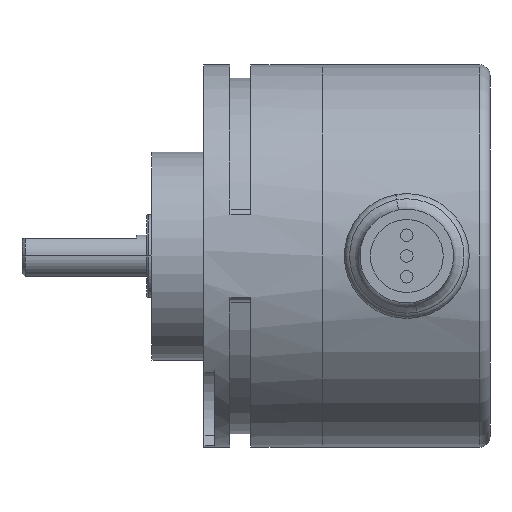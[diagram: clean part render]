
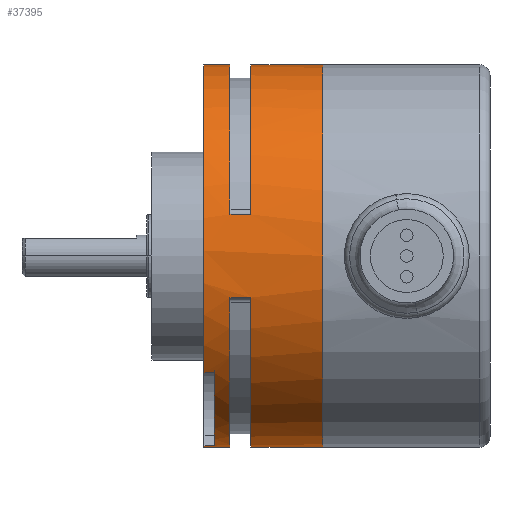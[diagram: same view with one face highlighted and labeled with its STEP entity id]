
A CAD part, front view. The second image highlights one B-rep face of the part: STEP entity #37395.
In plain terms, the highlighted cylindrical face has radius 18.4 mm (diameter 36.8 mm), a partial arc.
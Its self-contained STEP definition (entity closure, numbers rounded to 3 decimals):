
#1774 = CIRCLE ( 'NONE', #2210, 18.4 ) ;
#2090 = CARTESIAN_POINT ( 'NONE',  ( -47.111, 5.115, 0. ) ) ;
#2119 = FACE_OUTER_BOUND ( 'NONE', #37374, .T. ) ;
#2124 = DIRECTION ( 'NONE',  ( -1., 0., 0. ) ) ;
#2130 = CARTESIAN_POINT ( 'NONE',  ( -47.111, 2.669, -18.237 ) ) ;
#2187 = DIRECTION ( 'NONE',  ( 0., 0., 1. ) ) ;
#2210 = AXIS2_PLACEMENT_3D ( 'NONE', #2090, #2124, #2187 ) ;
#2218 = CIRCLE ( 'NONE', #2308, 18.4 ) ;
#2223 = CARTESIAN_POINT ( 'NONE',  ( -44.611, -12.845, 4. ) ) ;
#2243 = CARTESIAN_POINT ( 'NONE',  ( -35.711, 5.115, 0. ) ) ;
#2303 = DIRECTION ( 'NONE',  ( 0., 0., -1. ) ) ;
#2305 = DIRECTION ( 'NONE',  ( 1., 0., 0. ) ) ;
#2307 = CARTESIAN_POINT ( 'NONE',  ( -44.611, 5.115, 0. ) ) ;
#2308 = AXIS2_PLACEMENT_3D ( 'NONE', #2307, #2305, #2303 ) ;
#2358 = DIRECTION ( 'NONE',  ( -1., 0., 0. ) ) ;
#2360 = VECTOR ( 'NONE', #2358, 1000. ) ;
#2362 = CARTESIAN_POINT ( 'NONE',  ( -42.611, -12.845, 4. ) ) ;
#2364 = LINE ( 'NONE', #2362, #2360 ) ;
#2390 = CARTESIAN_POINT ( 'NONE',  ( -42.611, -12.845, 4. ) ) ;
#2483 = DIRECTION ( 'NONE',  ( 0., 0., 1. ) ) ;
#2484 = DIRECTION ( 'NONE',  ( -1., 0., 0. ) ) ;
#2486 = AXIS2_PLACEMENT_3D ( 'NONE', #2243, #2484, #2483 ) ;
#2487 = CIRCLE ( 'NONE', #2486, 18.4 ) ;
#2494 = DIRECTION ( 'NONE',  ( -1., 0., 0. ) ) ;
#2495 = CIRCLE ( 'NONE', #2521, 18.4 ) ;
#2496 = AXIS2_PLACEMENT_3D ( 'NONE', #2527, #2520, #2519 ) ;
#2500 = CARTESIAN_POINT ( 'NONE',  ( -47.111, 5.115, 0. ) ) ;
#2519 = DIRECTION ( 'NONE',  ( 0., 0., 1. ) ) ;
#2520 = DIRECTION ( 'NONE',  ( -1., 0., 0. ) ) ;
#2521 = AXIS2_PLACEMENT_3D ( 'NONE', #2500, #2494, #2528 ) ;
#2526 = CYLINDRICAL_SURFACE ( 'NONE', #2496, 18.4 ) ;
#2527 = CARTESIAN_POINT ( 'NONE',  ( -52.111, 5.115, 0. ) ) ;
#2528 = DIRECTION ( 'NONE',  ( 0., 0., 1. ) ) ;
#2567 = DIRECTION ( 'NONE',  ( 0., 0., -1. ) ) ;
#2568 = DIRECTION ( 'NONE',  ( 1., 0., 0. ) ) ;
#2569 = CARTESIAN_POINT ( 'NONE',  ( -42.611, 5.115, 0. ) ) ;
#2570 = AXIS2_PLACEMENT_3D ( 'NONE', #2569, #2568, #2567 ) ;
#2572 = CIRCLE ( 'NONE', #2570, 18.4 ) ;
#2573 = CARTESIAN_POINT ( 'NONE',  ( -46.111, 2.669, -18.237 ) ) ;
#2574 = DIRECTION ( 'NONE',  ( 0., 0., 1. ) ) ;
#2575 = DIRECTION ( 'NONE',  ( -1., 0., 0. ) ) ;
#2576 = CARTESIAN_POINT ( 'NONE',  ( -46.111, 5.115, 0. ) ) ;
#2577 = AXIS2_PLACEMENT_3D ( 'NONE', #2576, #2575, #2574 ) ;
#2578 = CIRCLE ( 'NONE', #2577, 18.4 ) ;
#2579 = CARTESIAN_POINT ( 'NONE',  ( -46.111, -9.456, -11.237 ) ) ;
#2580 = DIRECTION ( 'NONE',  ( -1., 0., 0. ) ) ;
#2581 = VECTOR ( 'NONE', #2580, 1000. ) ;
#2582 = CARTESIAN_POINT ( 'NONE',  ( -46.111, -9.456, -11.237 ) ) ;
#2583 = LINE ( 'NONE', #2582, #2581 ) ;
#2584 = DIRECTION ( 'NONE',  ( -1., 0., 0. ) ) ;
#2585 = VECTOR ( 'NONE', #2584, 1000. ) ;
#2586 = CARTESIAN_POINT ( 'NONE',  ( -46.111, 2.669, -18.237 ) ) ;
#2587 = LINE ( 'NONE', #2586, #2585 ) ;
#2726 = CARTESIAN_POINT ( 'NONE',  ( -47.111, -9.456, -11.237 ) ) ;
#28135 = DIRECTION ( 'NONE',  ( -1., 0., 0. ) ) ;
#28167 = CARTESIAN_POINT ( 'NONE',  ( -47.111, 5.115, 18.4 ) ) ;
#28184 = VECTOR ( 'NONE', #28135, 1000. ) ;
#28185 = CARTESIAN_POINT ( 'NONE',  ( -52.111, 5.115, 18.4 ) ) ;
#28186 = LINE ( 'NONE', #28185, #28184 ) ;
#28292 = CARTESIAN_POINT ( 'NONE',  ( -44.611, 5.115, 18.4 ) ) ;
#28474 = CARTESIAN_POINT ( 'NONE',  ( -42.611, 5.115, 18.4 ) ) ;
#28740 = DIRECTION ( 'NONE',  ( -1., 0., 0. ) ) ;
#28741 = VECTOR ( 'NONE', #28740, 1000. ) ;
#28742 = CARTESIAN_POINT ( 'NONE',  ( -52.111, 5.115, 18.4 ) ) ;
#28743 = LINE ( 'NONE', #28742, #28741 ) ;
#28960 = CARTESIAN_POINT ( 'NONE',  ( -42.611, 5.115, -18.4 ) ) ;
#28961 = DIRECTION ( 'NONE',  ( -1., 0., 0. ) ) ;
#28962 = VECTOR ( 'NONE', #28961, 1000. ) ;
#28963 = CARTESIAN_POINT ( 'NONE',  ( -52.111, 5.115, -18.4 ) ) ;
#28964 = LINE ( 'NONE', #28963, #28962 ) ;
#29015 = LINE ( 'NONE', #29071, #29070 ) ;
#29066 = CARTESIAN_POINT ( 'NONE',  ( -44.611, 5.115, -18.4 ) ) ;
#29068 = CARTESIAN_POINT ( 'NONE',  ( -47.111, 5.115, -18.4 ) ) ;
#29069 = DIRECTION ( 'NONE',  ( -1., 0., 0. ) ) ;
#29070 = VECTOR ( 'NONE', #29069, 1000. ) ;
#29071 = CARTESIAN_POINT ( 'NONE',  ( -52.111, 5.115, -18.4 ) ) ;
#29295 = CARTESIAN_POINT ( 'NONE',  ( -35.711, 5.115, -18.4 ) ) ;
#29314 = CARTESIAN_POINT ( 'NONE',  ( -35.711, 5.115, 18.4 ) ) ;
#35100 = VERTEX_POINT ( 'NONE', #28167 ) ;
#35126 = EDGE_CURVE ( 'NONE', #35427, #35162, #28186, .T. ) ;
#35154 = VERTEX_POINT ( 'NONE', #28292 ) ;
#35162 = VERTEX_POINT ( 'NONE', #28474 ) ;
#35326 = EDGE_CURVE ( 'NONE', #35154, #35100, #28743, .T. ) ;
#35407 = EDGE_CURVE ( 'NONE', #35429, #35408, #28964, .T. ) ;
#35408 = VERTEX_POINT ( 'NONE', #28960 ) ;
#35415 = EDGE_CURVE ( 'NONE', #35421, #35416, #29015, .T. ) ;
#35416 = VERTEX_POINT ( 'NONE', #29068 ) ;
#35421 = VERTEX_POINT ( 'NONE', #29066 ) ;
#35427 = VERTEX_POINT ( 'NONE', #29314 ) ;
#35429 = VERTEX_POINT ( 'NONE', #29295 ) ;
#35935 = ORIENTED_EDGE ( 'NONE', *, *, #35936, .F. ) ;
#35936 = EDGE_CURVE ( 'NONE', #35941, #35421, #52762, .T. ) ;
#35937 = VERTEX_POINT ( 'NONE', #52757 ) ;
#35938 = ORIENTED_EDGE ( 'NONE', *, *, #35943, .T. ) ;
#35939 = ORIENTED_EDGE ( 'NONE', *, *, #35940, .F. ) ;
#35940 = EDGE_CURVE ( 'NONE', #35937, #35941, #52756, .T. ) ;
#35941 = VERTEX_POINT ( 'NONE', #52934 ) ;
#35942 = ORIENTED_EDGE ( 'NONE', *, *, #35415, .F. ) ;
#35943 = EDGE_CURVE ( 'NONE', #35937, #35408, #52932, .T. ) ;
#37355 = EDGE_CURVE ( 'NONE', #37370, #37356, #2364, .T. ) ;
#37356 = VERTEX_POINT ( 'NONE', #2223 ) ;
#37357 = ORIENTED_EDGE ( 'NONE', *, *, #37358, .F. ) ;
#37358 = EDGE_CURVE ( 'NONE', #35154, #37356, #2218, .T. ) ;
#37366 = ORIENTED_EDGE ( 'NONE', *, *, #35407, .F. ) ;
#37367 = ORIENTED_EDGE ( 'NONE', *, *, #37368, .T. ) ;
#37368 = EDGE_CURVE ( 'NONE', #35429, #35427, #2487, .T. ) ;
#37369 = ORIENTED_EDGE ( 'NONE', *, *, #35126, .T. ) ;
#37370 = VERTEX_POINT ( 'NONE', #2390 ) ;
#37374 = EDGE_LOOP ( 'NONE', ( #37366, #37367, #37369, #37429, #37431, #37357, #37420, #37421, #37422, #37425, #37428, #37414, #35942, #35935, #35939, #35938 ) ) ;
#37384 = EDGE_CURVE ( 'NONE', #35416, #37389, #1774, .T. ) ;
#37389 = VERTEX_POINT ( 'NONE', #2130 ) ;
#37395 = ADVANCED_FACE ( 'NONE', ( #2119 ), #2526, .T. ) ;
#37396 = EDGE_CURVE ( 'NONE', #37469, #35100, #2495, .T. ) ;
#37413 = EDGE_CURVE ( 'NONE', #37427, #37389, #2587, .T. ) ;
#37414 = ORIENTED_EDGE ( 'NONE', *, *, #37384, .F. ) ;
#37420 = ORIENTED_EDGE ( 'NONE', *, *, #35326, .T. ) ;
#37421 = ORIENTED_EDGE ( 'NONE', *, *, #37396, .F. ) ;
#37422 = ORIENTED_EDGE ( 'NONE', *, *, #37423, .F. ) ;
#37423 = EDGE_CURVE ( 'NONE', #37424, #37469, #2583, .T. ) ;
#37424 = VERTEX_POINT ( 'NONE', #2579 ) ;
#37425 = ORIENTED_EDGE ( 'NONE', *, *, #37426, .F. ) ;
#37426 = EDGE_CURVE ( 'NONE', #37427, #37424, #2578, .T. ) ;
#37427 = VERTEX_POINT ( 'NONE', #2573 ) ;
#37428 = ORIENTED_EDGE ( 'NONE', *, *, #37413, .T. ) ;
#37429 = ORIENTED_EDGE ( 'NONE', *, *, #37430, .T. ) ;
#37430 = EDGE_CURVE ( 'NONE', #35162, #37370, #2572, .T. ) ;
#37431 = ORIENTED_EDGE ( 'NONE', *, *, #37355, .T. ) ;
#37469 = VERTEX_POINT ( 'NONE', #2726 ) ;
#52753 = DIRECTION ( 'NONE',  ( -1., 0., 0. ) ) ;
#52754 = VECTOR ( 'NONE', #52753, 1000. ) ;
#52755 = CARTESIAN_POINT ( 'NONE',  ( -42.611, -12.845, -4. ) ) ;
#52756 = LINE ( 'NONE', #52755, #52754 ) ;
#52757 = CARTESIAN_POINT ( 'NONE',  ( -42.611, -12.845, -4. ) ) ;
#52758 = DIRECTION ( 'NONE',  ( 0., 0., -1. ) ) ;
#52759 = DIRECTION ( 'NONE',  ( 1., 0., 0. ) ) ;
#52760 = CARTESIAN_POINT ( 'NONE',  ( -44.611, 5.115, 0. ) ) ;
#52761 = AXIS2_PLACEMENT_3D ( 'NONE', #52760, #52759, #52758 ) ;
#52762 = CIRCLE ( 'NONE', #52761, 18.4 ) ;
#52928 = DIRECTION ( 'NONE',  ( 0., 0., -1. ) ) ;
#52929 = DIRECTION ( 'NONE',  ( 1., 0., 0. ) ) ;
#52930 = CARTESIAN_POINT ( 'NONE',  ( -42.611, 5.115, 0. ) ) ;
#52931 = AXIS2_PLACEMENT_3D ( 'NONE', #52930, #52929, #52928 ) ;
#52932 = CIRCLE ( 'NONE', #52931, 18.4 ) ;
#52934 = CARTESIAN_POINT ( 'NONE',  ( -44.611, -12.845, -4. ) ) ;
